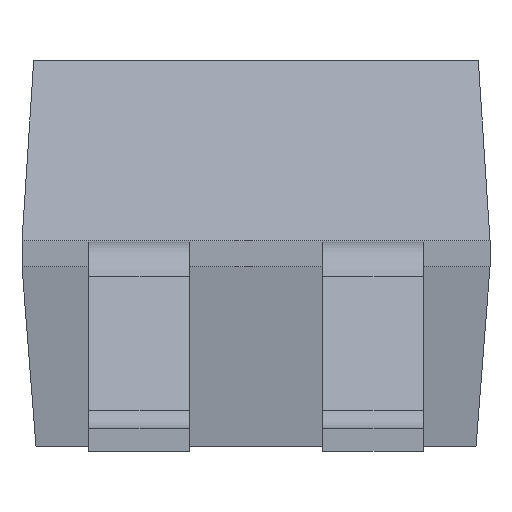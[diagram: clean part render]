
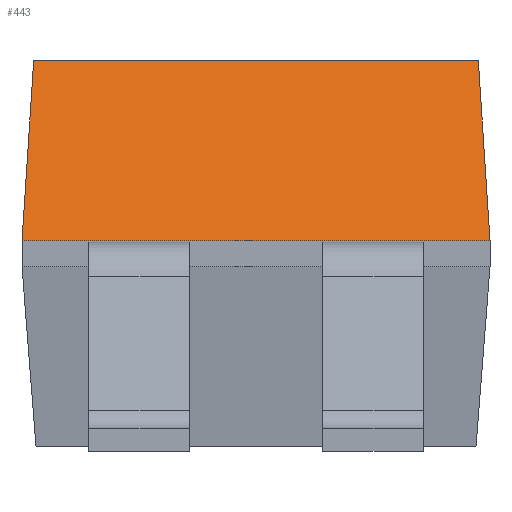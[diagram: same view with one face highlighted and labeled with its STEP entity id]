
A CAD part, left-side view. The second image highlights one B-rep face of the part: STEP entity #443.
In plain terms, the highlighted planar face has unit normal (-0.955, 0, 0.298).
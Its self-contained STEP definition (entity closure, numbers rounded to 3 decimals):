
#260=CARTESIAN_POINT('',(-2.794,-2.413,4.242));
#259=VERTEX_POINT('',#260);
#278=CARTESIAN_POINT('',(-2.794,2.413,4.242));
#277=VERTEX_POINT('',#278);
#286=EDGE_CURVE('',#259,#277,#291,.T.);
#291=LINE('',#260,#293);
#293=VECTOR('',#294,4.826);
#294=DIRECTION('',(0.0,1.0,0.0));
#309=CARTESIAN_POINT('',(-3.404,-2.54,2.289));
#308=VERTEX_POINT('',#309);
#335=EDGE_CURVE('',#308,#259,#340,.T.);
#340=LINE('',#309,#342);
#342=VECTOR('',#343,2.05);
#343=DIRECTION('',(0.297,0.062,0.953));
#405=CARTESIAN_POINT('',(-3.404,2.54,2.289));
#404=VERTEX_POINT('',#405);
#413=EDGE_CURVE('',#277,#404,#418,.T.);
#418=LINE('',#278,#420);
#420=VECTOR('',#421,2.05);
#421=DIRECTION('',(-0.297,0.062,-0.953));
#443=ADVANCED_FACE('',(#449),#444,.T.);
#444=PLANE('',#445);
#445=AXIS2_PLACEMENT_3D('',#446,#447,#448);
#446=CARTESIAN_POINT('',(-3.404,2.54,2.289));
#447=DIRECTION('',(-0.955,0.0,0.298));
#448=DIRECTION('',(0.,0.,1.));
#449=FACE_OUTER_BOUND('',#450,.T.);
#450=EDGE_LOOP('',(#451,#461,#471,#481));
#452=EDGE_CURVE('',#308,#404,#457,.T.);
#457=LINE('',#309,#459);
#459=VECTOR('',#460,5.08);
#460=DIRECTION('',(0.0,1.0,0.0));
#451=ORIENTED_EDGE('',*,*,#452,.F.);
#461=ORIENTED_EDGE('',*,*,#335,.T.);
#471=ORIENTED_EDGE('',*,*,#286,.T.);
#481=ORIENTED_EDGE('',*,*,#413,.T.);
